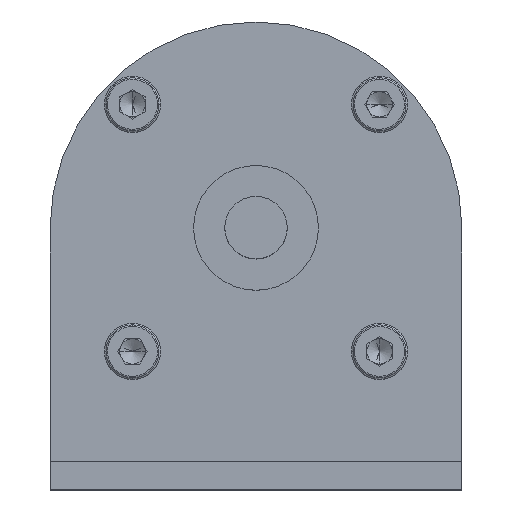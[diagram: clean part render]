
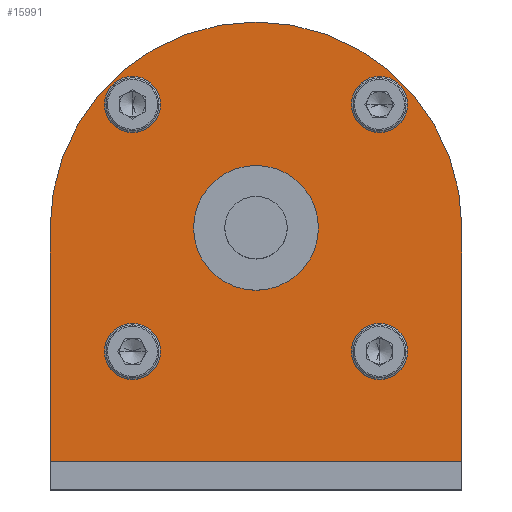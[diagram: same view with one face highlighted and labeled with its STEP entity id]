
A CAD part, top view. The second image highlights one B-rep face of the part: STEP entity #15991.
In plain terms, the highlighted planar face has unit normal (0, 0, 1).
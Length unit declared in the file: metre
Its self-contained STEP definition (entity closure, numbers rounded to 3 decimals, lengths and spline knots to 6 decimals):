
#63 = EDGE_LOOP ( 'NONE', ( #4275, #7564 ) ) ;
#155 = LINE ( 'NONE', #10975, #3106 ) ;
#244 = FACE_OUTER_BOUND ( 'NONE', #11860, .T. ) ;
#572 = CIRCLE ( 'NONE', #14554, 0.033 ) ;
#581 = ORIENTED_EDGE ( 'NONE', *, *, #13205, .T. ) ;
#689 = FACE_BOUND ( 'NONE', #10923, .T. ) ;
#955 = EDGE_CURVE ( 'NONE', #4271, #11760, #4071, .T. ) ;
#1657 = CARTESIAN_POINT ( 'NONE',  ( 0., 0., 0. ) ) ;
#1816 = CARTESIAN_POINT ( 'NONE',  ( -0.01, 0., 0. ) ) ;
#1930 = EDGE_CURVE ( 'NONE', #2168, #4833, #155, .T. ) ;
#2039 = CARTESIAN_POINT ( 'NONE',  ( -0.033, -0.0375, 0. ) ) ;
#2168 = VERTEX_POINT ( 'NONE', #9451 ) ;
#2207 = CIRCLE ( 'NONE', #10944, 0.00275 ) ;
#2385 = CIRCLE ( 'NONE', #9039, 0.00275 ) ;
#2646 = VECTOR ( 'NONE', #3351, 1. ) ;
#3082 = DIRECTION ( 'NONE',  ( 1., 0., 0. ) ) ;
#3106 = VECTOR ( 'NONE', #12156, 1. ) ;
#3351 = DIRECTION ( 'NONE',  ( 1., 0., 0. ) ) ;
#3414 = VECTOR ( 'NONE', #14398, 1. ) ;
#3744 = CIRCLE ( 'NONE', #10843, 0.00275 ) ;
#4018 = FACE_BOUND ( 'NONE', #8084, .T. ) ;
#4071 = LINE ( 'NONE', #5840, #3414 ) ;
#4195 = EDGE_CURVE ( 'NONE', #6423, #6263, #10732, .T. ) ;
#4271 = VERTEX_POINT ( 'NONE', #6695 ) ;
#4275 = ORIENTED_EDGE ( 'NONE', *, *, #6068, .T. ) ;
#4335 = DIRECTION ( 'NONE',  ( 0., 0., 1. ) ) ;
#4429 = EDGE_CURVE ( 'NONE', #10496, #7511, #11723, .T. ) ;
#4833 = VERTEX_POINT ( 'NONE', #2039 ) ;
#4911 = CARTESIAN_POINT ( 'NONE',  ( -0.022549, -0.019799, 0. ) ) ;
#5121 = CARTESIAN_POINT ( 'NONE',  ( -0.017049, 0.019799, 0. ) ) ;
#5156 = VERTEX_POINT ( 'NONE', #7497 ) ;
#5180 = DIRECTION ( 'NONE',  ( 1., 0., 0. ) ) ;
#5195 = DIRECTION ( 'NONE',  ( 0., 0., -1. ) ) ;
#5216 = CARTESIAN_POINT ( 'NONE',  ( 0.019799, -0.019799, 0. ) ) ;
#5303 = VERTEX_POINT ( 'NONE', #7070 ) ;
#5323 = CARTESIAN_POINT ( 'NONE',  ( 0.019799, 0.019799, 0. ) ) ;
#5609 = AXIS2_PLACEMENT_3D ( 'NONE', #16608, #17887, #9781 ) ;
#5701 = ORIENTED_EDGE ( 'NONE', *, *, #17466, .T. ) ;
#5840 = CARTESIAN_POINT ( 'NONE',  ( 0.033, -0.002038, 0. ) ) ;
#6010 = AXIS2_PLACEMENT_3D ( 'NONE', #1657, #11657, #3082 ) ;
#6068 = EDGE_CURVE ( 'NONE', #7185, #5156, #10769, .T. ) ;
#6263 = VERTEX_POINT ( 'NONE', #13981 ) ;
#6423 = VERTEX_POINT ( 'NONE', #1816 ) ;
#6695 = CARTESIAN_POINT ( 'NONE',  ( 0.033, -0.0375, 0. ) ) ;
#6760 = DIRECTION ( 'NONE',  ( 1., 0., 0. ) ) ;
#6805 = VERTEX_POINT ( 'NONE', #4911 ) ;
#6843 = VERTEX_POINT ( 'NONE', #5121 ) ;
#6849 = PLANE ( 'NONE',  #5609 ) ;
#6998 = ORIENTED_EDGE ( 'NONE', *, *, #9624, .T. ) ;
#7020 = CARTESIAN_POINT ( 'NONE',  ( -0.019799, 0.019799, 0. ) ) ;
#7070 = CARTESIAN_POINT ( 'NONE',  ( -0.022549, 0.019799, 0. ) ) ;
#7185 = VERTEX_POINT ( 'NONE', #11917 ) ;
#7310 = DIRECTION ( 'NONE',  ( 0., 0., -1. ) ) ;
#7497 = CARTESIAN_POINT ( 'NONE',  ( 0.017049, 0.019799, 0. ) ) ;
#7499 = DIRECTION ( 'NONE',  ( 1., 0., 0. ) ) ;
#7506 = DIRECTION ( 'NONE',  ( 0., 0., -1. ) ) ;
#7509 = AXIS2_PLACEMENT_3D ( 'NONE', #12206, #12194, #12150 ) ;
#7511 = VERTEX_POINT ( 'NONE', #14621 ) ;
#7519 = CARTESIAN_POINT ( 'NONE',  ( 0., 0., 0. ) ) ;
#7564 = ORIENTED_EDGE ( 'NONE', *, *, #12866, .T. ) ;
#7570 = AXIS2_PLACEMENT_3D ( 'NONE', #5216, #5195, #5180 ) ;
#7616 = ORIENTED_EDGE ( 'NONE', *, *, #12266, .T. ) ;
#7638 = DIRECTION ( 'NONE',  ( 1., 0., 0. ) ) ;
#7680 = CARTESIAN_POINT ( 'NONE',  ( -0.019799, -0.019799, 0. ) ) ;
#7681 = DIRECTION ( 'NONE',  ( 0., 0., -1. ) ) ;
#7702 = CARTESIAN_POINT ( 'NONE',  ( 0.019799, -0.019799, 0. ) ) ;
#7827 = FACE_BOUND ( 'NONE', #17612, .T. ) ;
#7948 = AXIS2_PLACEMENT_3D ( 'NONE', #7519, #7506, #7499 ) ;
#8084 = EDGE_LOOP ( 'NONE', ( #11721, #7616 ) ) ;
#8305 = FACE_BOUND ( 'NONE', #63, .T. ) ;
#8558 = DIRECTION ( 'NONE',  ( 1., 0., 0. ) ) ;
#8834 = CARTESIAN_POINT ( 'NONE',  ( 0.019799, 0.019799, 0. ) ) ;
#9039 = AXIS2_PLACEMENT_3D ( 'NONE', #7702, #7681, #7638 ) ;
#9153 = EDGE_LOOP ( 'NONE', ( #15646, #14099 ) ) ;
#9184 = DIRECTION ( 'NONE',  ( 1., 0., 0. ) ) ;
#9451 = CARTESIAN_POINT ( 'NONE',  ( -0.033, 0., 0. ) ) ;
#9624 = EDGE_CURVE ( 'NONE', #6805, #12913, #16681, .T. ) ;
#9652 = AXIS2_PLACEMENT_3D ( 'NONE', #8834, #7310, #16993 ) ;
#9781 = DIRECTION ( 'NONE',  ( 1., 0., 0. ) ) ;
#9854 = ORIENTED_EDGE ( 'NONE', *, *, #4195, .T. ) ;
#10246 = LINE ( 'NONE', #14368, #2646 ) ;
#10293 = EDGE_CURVE ( 'NONE', #4833, #4271, #10246, .T. ) ;
#10496 = VERTEX_POINT ( 'NONE', #17724 ) ;
#10732 = CIRCLE ( 'NONE', #7948, 0.01 ) ;
#10769 = CIRCLE ( 'NONE', #9652, 0.00275 ) ;
#10809 = EDGE_CURVE ( 'NONE', #6843, #5303, #18038, .T. ) ;
#10843 = AXIS2_PLACEMENT_3D ( 'NONE', #7680, #17306, #9184 ) ;
#10923 = EDGE_LOOP ( 'NONE', ( #16910, #9854 ) ) ;
#10944 = AXIS2_PLACEMENT_3D ( 'NONE', #7020, #16759, #8558 ) ;
#10975 = CARTESIAN_POINT ( 'NONE',  ( -0.033, -0.002038, 0. ) ) ;
#11190 = CARTESIAN_POINT ( 'NONE',  ( -0.017049, -0.019799, 0. ) ) ;
#11465 = ORIENTED_EDGE ( 'NONE', *, *, #1930, .T. ) ;
#11657 = DIRECTION ( 'NONE',  ( 0., 0., -1. ) ) ;
#11658 = FACE_BOUND ( 'NONE', #9153, .T. ) ;
#11721 = ORIENTED_EDGE ( 'NONE', *, *, #4429, .T. ) ;
#11723 = CIRCLE ( 'NONE', #7570, 0.00275 ) ;
#11760 = VERTEX_POINT ( 'NONE', #17415 ) ;
#11860 = EDGE_LOOP ( 'NONE', ( #581, #11465, #15708, #12569 ) ) ;
#11917 = CARTESIAN_POINT ( 'NONE',  ( 0.022549, 0.019799, 0. ) ) ;
#12144 = AXIS2_PLACEMENT_3D ( 'NONE', #5323, #15240, #6760 ) ;
#12150 = DIRECTION ( 'NONE',  ( 1., 0., 0. ) ) ;
#12156 = DIRECTION ( 'NONE',  ( 0., -1., 0. ) ) ;
#12194 = DIRECTION ( 'NONE',  ( 0., 0., -1. ) ) ;
#12206 = CARTESIAN_POINT ( 'NONE',  ( -0.019799, 0.019799, 0. ) ) ;
#12266 = EDGE_CURVE ( 'NONE', #7511, #10496, #2385, .T. ) ;
#12569 = ORIENTED_EDGE ( 'NONE', *, *, #955, .T. ) ;
#12866 = EDGE_CURVE ( 'NONE', #5156, #7185, #17987, .T. ) ;
#12888 = DIRECTION ( 'NONE',  ( 1., 0., 0. ) ) ;
#12905 = DIRECTION ( 'NONE',  ( 0., 0., -1. ) ) ;
#12913 = VERTEX_POINT ( 'NONE', #11190 ) ;
#12947 = CARTESIAN_POINT ( 'NONE',  ( 0., 0., 0. ) ) ;
#12952 = CARTESIAN_POINT ( 'NONE',  ( -0.019799, -0.019799, 0. ) ) ;
#13205 = EDGE_CURVE ( 'NONE', #11760, #2168, #572, .T. ) ;
#13981 = CARTESIAN_POINT ( 'NONE',  ( 0.01, 0., 0. ) ) ;
#14099 = ORIENTED_EDGE ( 'NONE', *, *, #17241, .T. ) ;
#14309 = DIRECTION ( 'NONE',  ( 1., 0., 0. ) ) ;
#14368 = CARTESIAN_POINT ( 'NONE',  ( 0., -0.0375, 0. ) ) ;
#14398 = DIRECTION ( 'NONE',  ( 0., 1., 0. ) ) ;
#14554 = AXIS2_PLACEMENT_3D ( 'NONE', #12947, #4335, #14309 ) ;
#14621 = CARTESIAN_POINT ( 'NONE',  ( 0.017049, -0.019799, 0. ) ) ;
#14629 = AXIS2_PLACEMENT_3D ( 'NONE', #12952, #12905, #12888 ) ;
#15240 = DIRECTION ( 'NONE',  ( 0., 0., -1. ) ) ;
#15646 = ORIENTED_EDGE ( 'NONE', *, *, #10809, .T. ) ;
#15708 = ORIENTED_EDGE ( 'NONE', *, *, #10293, .T. ) ;
#15841 = CIRCLE ( 'NONE', #6010, 0.01 ) ;
#15991 = ADVANCED_FACE ( 'NONE', ( #689, #8305, #11658, #7827, #4018, #244 ), #6849, .T. ) ;
#16608 = CARTESIAN_POINT ( 'NONE',  ( -0.033, -0.0375, 0. ) ) ;
#16681 = CIRCLE ( 'NONE', #14629, 0.00275 ) ;
#16759 = DIRECTION ( 'NONE',  ( 0., 0., -1. ) ) ;
#16910 = ORIENTED_EDGE ( 'NONE', *, *, #17398, .T. ) ;
#16993 = DIRECTION ( 'NONE',  ( 1., 0., 0. ) ) ;
#17241 = EDGE_CURVE ( 'NONE', #5303, #6843, #2207, .T. ) ;
#17306 = DIRECTION ( 'NONE',  ( 0., 0., -1. ) ) ;
#17398 = EDGE_CURVE ( 'NONE', #6263, #6423, #15841, .T. ) ;
#17415 = CARTESIAN_POINT ( 'NONE',  ( 0.033, 0., 0. ) ) ;
#17466 = EDGE_CURVE ( 'NONE', #12913, #6805, #3744, .T. ) ;
#17612 = EDGE_LOOP ( 'NONE', ( #5701, #6998 ) ) ;
#17724 = CARTESIAN_POINT ( 'NONE',  ( 0.022549, -0.019799, 0. ) ) ;
#17887 = DIRECTION ( 'NONE',  ( 0., 0., 1. ) ) ;
#17987 = CIRCLE ( 'NONE', #12144, 0.00275 ) ;
#18038 = CIRCLE ( 'NONE', #7509, 0.00275 ) ;
